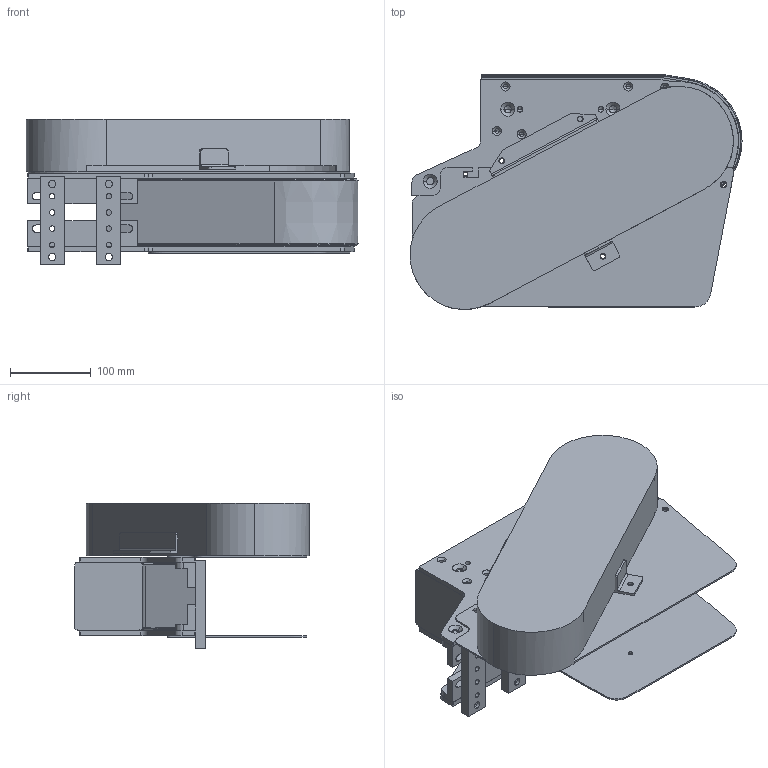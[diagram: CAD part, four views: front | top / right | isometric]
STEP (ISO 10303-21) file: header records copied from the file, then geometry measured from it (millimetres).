
FILE_DESCRIPTION (( 'STEP AP214' ), '1' );
FILE_NAME ('FMSD OR.step', '2017-04-07T11:08:49', ( '' ), ( '' ), 'SwSTEP 2.0', 'SolidWorks 2016', '' );
FILE_SCHEMA (( 'AUTOMOTIVE_DESIGN' ));
Length unit declared in the file: millimetre
Products named in the file (1): FMSD OR
Bounding box: 410.52 x 290.43 x 180.5 mm (x, y, z)
Volume: 4488293.7 mm3; surface area: 825647.2 mm2
Topology: 10 solids, 10 shells, 577 faces, 1522 edges, 940 vertices
Faces by surface type: cylinder 291, plane 147, cone 124, torus 8, bspline 7
Entity records: 19736 total; most frequent: CARTESIAN_POINT 3661, DIRECTION 3266, ORIENTED_EDGE 2924, EDGE_CURVE 1462, AXIS2_PLACEMENT_3D 1245, VERTEX_POINT 940, VECTOR 776, LINE 776
